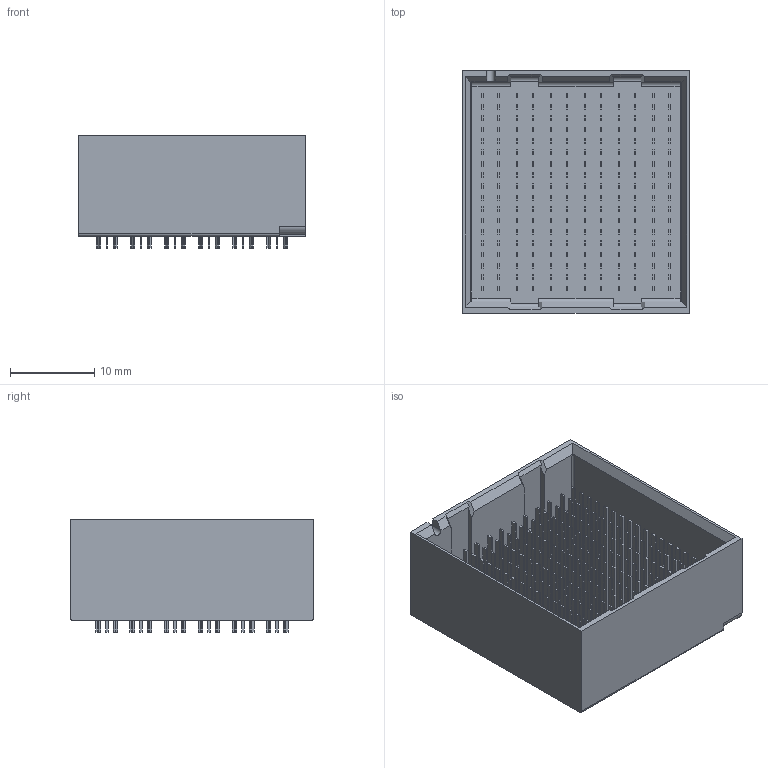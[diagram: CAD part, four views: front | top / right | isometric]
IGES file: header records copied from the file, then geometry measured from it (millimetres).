
Start section:  PTC IGES file: c-2143271-1-d-3d.igs
Global section: file name: c-2143271-1-d-3d.igs; native system: Creo Parametric by PTC Inc.; preprocessor: 2016050; author: workeradm; organization: Unknown; units: millimetre
Bounding box: 26.95 x 28.85 x 13.35 mm (x, y, z)
Surface area: 5703.9 mm2 (no closed solid volume)
Topology: 0 solids, 0 shells, 2242 faces, 10832 edges, 10832 vertices
Faces by surface type: bspline 2216, revolution 26
